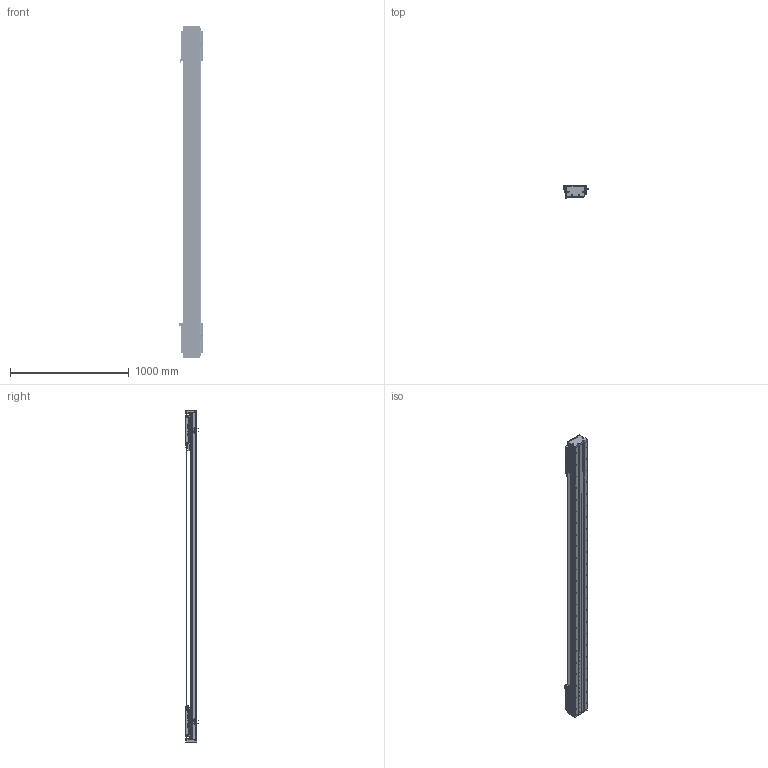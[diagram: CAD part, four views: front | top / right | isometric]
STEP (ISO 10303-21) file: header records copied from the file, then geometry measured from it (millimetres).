
FILE_DESCRIPTION (( 'STEP AP203' ), '1' );
FILE_NAME ('DA-C145-2-C3-T2180-C010-0.2 眻盄萇儂.STEP', '2025-08-13T10:26:15', ( '' ), ( '' ), 'SwSTEP 2.0', 'SolidWorks 2019', '' );
FILE_SCHEMA (( 'CONFIG_CONTROL_DESIGN' ));
Length unit declared in the file: millimetre
Products named in the file (38): 复件 纯铜油杯 6x6mm^CU145-W 滚珠滑台; 复件 半圆头内六角螺钉 M3×6^CU145-W 滚珠滑台; 葩璃 DA95-HXJ-00 遣喳砎蝶^DA-C145-2-C3-T-C010-0.2; 复件 DA145-GYP-00 光电感应片^DA-C145-2-C3-T-C010-0.2; 复件 DA145-DG 钢带端盖^复件 CU145 钢带组件_DA-C145-2-C3-T-C010-0.2; CU145-W 幗紩賑怢; 葩璃 XD-U-02L 棠掑喜^DA-C145-2-C3-T-C010-0.2; 葩璃 DA95-GT-T-00^IU-CU145-L 菁釱絳寢; 复件 DA95-DB-00  挡板^CU145-W 滚珠滑台; 葩璃 DA145-C3-DP-A-00 菜えA^CU145-W 幗紩賑怢; 葩璃 CU145 詩湍郪璃^DA-C145-2-C3-T-C010-0.2; 复件 DA95-MFP-01 密封片^CU145-W 滚珠滑台; CU145-W-00 珨极趙賑雄怢啣-1; 葩璃 DMA-010-0.2 黍杅芛^DA-C145-2-C3-T-C010-0.2; 葩璃 CKMA01-W060-TRL^DA-C145-2-C3-T-C010-0.2; 复件 DA145-C3-DK-00 挡块^CU145-W 滚珠滑台; DKW-KGZ-ZJ-00 中间光电开关支架; 葩璃 CKM03-W060-C1C2-TP-0.2^DA-C145-2-C3-T-C010-0.2; DA-C145-2-C3-T2180-C010-0.2 眻盄萇儂; 复件 DA145-C3-YB-B-00 压板B^CU145-W 滚珠滑台; 葩璃 PM-T45^DA-C145-2-C3-T-C010-0.2; 复件 DA145-C3-YB-A-00 压板A^CU145-W 滚珠滑台; IU-CU145-L 菁釱絳寢; TAY01-M8; 葩璃 鞠褒情蹟譫 M3^DA-C145-2-C3-T-C010-0.2; 66245-CU145-HT-W-00 賑雄怢啣(3D芞祧)(00); 复件 DA146 钢带拉块^复件 CU145 钢带组件_DA-C145-2-C3-T-C010-0.2; IU-CU145-L-00 菁釱(L2760); DKW-GYP-ZJ-00 笢潔嫖萇覜茼え; DKW168-HXJ-ZJ-00 笢潔滅袉砎蝶; 复件 DA95-HK-GT-00 滑块钢轨^CU145-W-00 一体化滑动台板; 复件 DA145 钢带^复件 CU145 钢带组件_DA-C145-2-C3-T-C010-0.2; 葩璃 DA145-C3-DP-B-00 菜えB^CU145-W 幗紩賑怢; CU145-W-00 珨极趙賑雄怢啣; 复件 内六角平端紧定螺钉 GB.T77-2000 M5×10^CU145-W 滚珠滑台; 复件 DA146 钢带垫块^复件 CU145 钢带组件_DA-C145-2-C3-T-C010-0.2; 葩璃 PM-Y65^DA-C145-2-C3-T-C010-0.2; CU145-W 幗紩賑怢-1
Assembly tree (180 placements, depth 4):
  DA-C145-2-C3-T2180-C010-0.2 眻盄萇儂
    IU-CU145-L 菁釱絳寢
      IU-CU145-L-00 菁釱(L2760)
      葩璃 DA95-GT-T-00^IU-CU145-L 菁釱絳寢  x4
    葩璃 CU145 詩湍郪璃^DA-C145-2-C3-T-C010-0.2
      复件 DA145-DG 钢带端盖^复件 CU145 钢带组件_DA-C145-2-C3-T-C010-0.2  x2
      复件 DA146 钢带拉块^复件 CU145 钢带组件_DA-C145-2-C3-T-C010-0.2  x2
      复件 DA146 钢带垫块^复件 CU145 钢带组件_DA-C145-2-C3-T-C010-0.2  x2
      复件 DA145 钢带^复件 CU145 钢带组件_DA-C145-2-C3-T-C010-0.2
    CU145-W 幗紩賑怢
      CU145-W-00 珨极趙賑雄怢啣
        66245-CU145-HT-W-00 賑雄怢啣(3D芞祧)(00)
        复件 DA95-HK-GT-00 滑块钢轨^CU145-W-00 一体化滑动台板  x8
      复件 DA95-MFP-01 密封片^CU145-W 滚珠滑台  x8
      复件 DA95-DB-00  挡板^CU145-W 滚珠滑台  x8
      复件 内六角平端紧定螺钉 GB.T77-2000 M5×10^CU145-W 滚珠滑台  x4
      复件 纯铜油杯 6x6mm^CU145-W 滚珠滑台  x4
      复件 半圆头内六角螺钉 M3×6^CU145-W 滚珠滑台  x16
      复件 DA145-C3-DK-00 挡块^CU145-W 滚珠滑台  x4
      葩璃 DA145-C3-DP-B-00 菜えB^CU145-W 幗紩賑怢  x2
      复件 DA145-C3-YB-B-00 压板B^CU145-W 滚珠滑台  x2
      葩璃 DA145-C3-DP-A-00 菜えA^CU145-W 幗紩賑怢  x3
      复件 DA145-C3-YB-A-00 压板A^CU145-W 滚珠滑台  x3
      TAY01-M8  x4
    CU145-W 幗紩賑怢-1
      CU145-W-00 珨极趙賑雄怢啣-1
        66245-CU145-HT-W-00 賑雄怢啣(3D芞祧)(00)
        复件 DA95-HK-GT-00 滑块钢轨^CU145-W-00 一体化滑动台板  x8
      复件 DA95-MFP-01 密封片^CU145-W 滚珠滑台  x8
      复件 DA95-DB-00  挡板^CU145-W 滚珠滑台  x8
      复件 内六角平端紧定螺钉 GB.T77-2000 M5×10^CU145-W 滚珠滑台  x4
      复件 纯铜油杯 6x6mm^CU145-W 滚珠滑台  x4
      复件 半圆头内六角螺钉 M3×6^CU145-W 滚珠滑台  x16
      复件 DA145-C3-DK-00 挡块^CU145-W 滚珠滑台  x4
      葩璃 DA145-C3-DP-B-00 菜えB^CU145-W 幗紩賑怢  x2
      复件 DA145-C3-YB-B-00 压板B^CU145-W 滚珠滑台  x2
      葩璃 DA145-C3-DP-A-00 菜えA^CU145-W 幗紩賑怢  x3
      复件 DA145-C3-YB-A-00 压板A^CU145-W 滚珠滑台  x3
      TAY01-M8  x4
    葩璃 CKMA01-W060-TRL^DA-C145-2-C3-T-C010-0.2
    葩璃 PM-T45^DA-C145-2-C3-T-C010-0.2  x4
    葩璃 XD-U-02L 棠掑喜^DA-C145-2-C3-T-C010-0.2
    葩璃 DA95-HXJ-00 遣喳砎蝶^DA-C145-2-C3-T-C010-0.2  x4
    葩璃 CKM03-W060-C1C2-TP-0.2^DA-C145-2-C3-T-C010-0.2  x2
    葩璃 DMA-010-0.2 黍杅芛^DA-C145-2-C3-T-C010-0.2  x2
    复件 DA145-GYP-00 光电感应片^DA-C145-2-C3-T-C010-0.2  x2
    DKW-GYP-ZJ-00 笢潔嫖萇覜茼え
    DKW-KGZ-ZJ-00 中间光电开关支架
    葩璃 PM-Y65^DA-C145-2-C3-T-C010-0.2
    葩璃 鞠褒情蹟譫 M3^DA-C145-2-C3-T-C010-0.2  x8
    DKW168-HXJ-ZJ-00 笢潔滅袉砎蝶
Bounding box: 213.7 x 108.45 x 2796 mm (x, y, z)
Volume: 14949941.7 mm3; surface area: 4758137.5 mm2
Topology: 175 solids, 239 shells, 7636 faces, 20769 edges, 12865 vertices
Faces by surface type: cylinder 3343, plane 2953, cone 1184, torus 140, sphere 8, bspline 8
Entity records: 144576 total; most frequent: CARTESIAN_POINT 42020, ORIENTED_EDGE 20224, DIRECTION 19233, EDGE_CURVE 10112, AXIS2_PLACEMENT_3D 7085, VERTEX_POINT 6564, VECTOR 5063, LINE 5063
